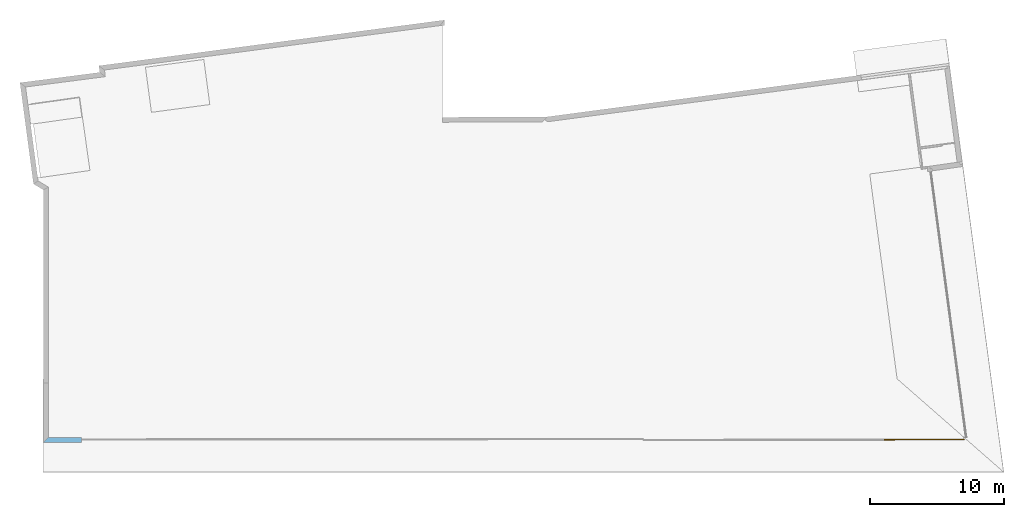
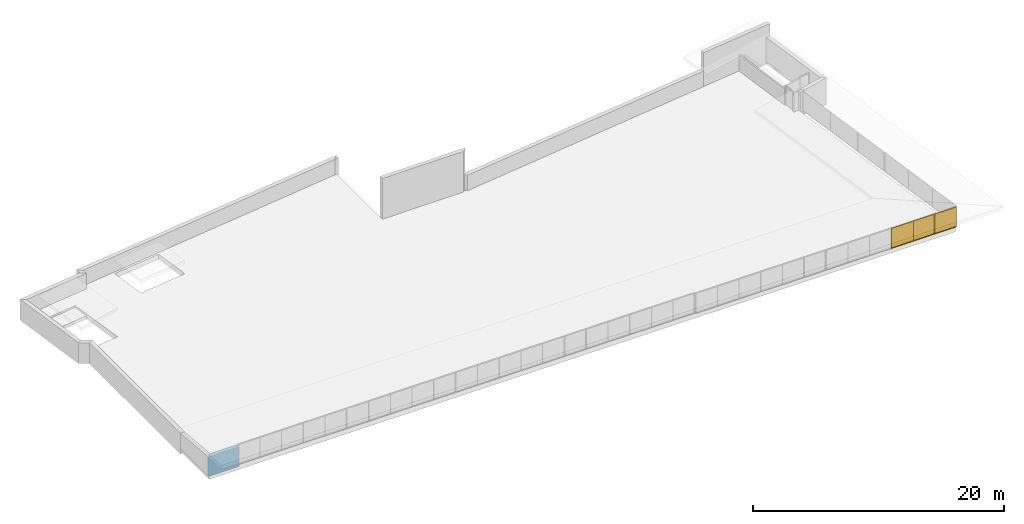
# One storey, part 5 of 7: 1 window, 11 openings, plus 1 element that does not belong to this part.
"""IFC2X3 building model written with IfcOpenShell, lengths in metres."""

from ifc_helpers import new_model, entity, si_unit, converted_unit, money_unit, direction, frame, origin_with_axes, origin_2d_with_axis, place, context, subcontext, project, spatial, polyline, rectangle, outline, extrude, clip, bounded_halfspace, faceted_brep, source, transform, mapped, material, material_list, layer, layer_set, layer_usage, type_object, element, fill, save


model = new_model("IFC2X3")

# Units and contexts
model_context = context("Model", 3, precision=1e-05, world=origin_with_axes(), true_north=direction((0.0, 1.0)))
body_context = subcontext(model_context, "Body", "Model", "MODEL_VIEW")
ifc_project = project(units=[si_unit("LENGTHUNIT", "METRE"), si_unit("AREAUNIT", "SQUARE_METRE"), si_unit("VOLUMEUNIT", "CUBIC_METRE"), converted_unit("PLANEANGLEUNIT", "DEGREE", entity("IfcPlaneAngleMeasure", 0.0174532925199), si_unit("PLANEANGLEUNIT", "RADIAN"), dimensions=[0, 0, 0, 0, 0, 0, 0]), si_unit("SOLIDANGLEUNIT", "STERADIAN"), money_unit("EUR"), converted_unit("TIMEUNIT", "Year", entity("IfcTimeMeasure", 31556926.0), si_unit("TIMEUNIT", "SECOND"), dimensions=[0, 0, 0, 0, 0, 0, 0]), si_unit("MASSUNIT", "GRAM"), si_unit("THERMODYNAMICTEMPERATUREUNIT", "DEGREE_CELSIUS"), si_unit("LUMINOUSINTENSITYUNIT", "LUMEN")], contexts=[model_context])

# Site, building, storey
site_placement = place(None, origin_with_axes())
site = spatial("IfcSite", under=ifc_project, at=site_placement, Name="Undefined", CompositionType="ELEMENT")
building_placement = place(site_placement, origin_with_axes())
building = spatial("IfcBuilding", under=site, at=building_placement, Name="Undefined", CompositionType="ELEMENT")
storey_placement = place(building_placement, frame((0.0, 0.0, 17.4), z_axis=(0.0, 0.0, 1.0), x_axis=(1.0, 0.0, 0.0)))
storey = spatial("IfcBuildingStorey", under=building, at=storey_placement, Name="Toiture", CompositionType="ELEMENT", Elevation=17.4)

# Wall, openings, window
ifc_material_1 = material(Name="Finition ext - Cr\x8epis")
ifc_layer_1 = layer(ifc_material_1, 0.015, ventilated="UNKNOWN")
ifc_material_2 = material(Name="Isolation - Fibres de bois")
ifc_layer_2 = layer(ifc_material_2, 0.16, ventilated="UNKNOWN")
ifc_material_3 = material(Name="Struct. - B.A. banch\x8e")
ifc_layer_3 = layer(ifc_material_3, 0.18, ventilated="UNKNOWN")
ifc_material_4 = material(Name="Finition int - Enduit pl\x89tre")
ifc_layer_4 = layer(ifc_material_4, 0.015, ventilated="UNKNOWN")
ifc_layer_set = layer_set([ifc_layer_1, ifc_layer_2, ifc_layer_3, ifc_layer_4], Name="1.2-Mur ext: rev\x8et ext + isol ext + ma\x8donnerie + enduit")
ifc_layer_usage = layer_usage(ifc_layer_set, "AXIS2", "POSITIVE", 0.0)
wall_type = type_object("IfcWallType", Name="1.2-Mur ext: rev\x8et ext + isol ext + ma\x8donnerie + enduit 370", PredefinedType="NOTDEFINED")
wall_placement = place(storey_placement, frame((-0.37, -0.437599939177, 0.0), z_axis=(0.0, 0.0, 1.0), x_axis=(0.999999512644, 0.000987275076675, 0.0)))
wall = element("IfcWallStandardCase", 1, at=wall_placement, inside=storey, type_object=wall_type, material=ifc_layer_usage, Name="SW - 010", ObjectType="WALL", context=body_context, shape_type="Clipping", body=[
    clip(clip(clip(extrude(outline(polyline([(0.0, 0.0), (68.8425471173, 0.0), (68.8425471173, 0.37), (0.370365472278, 0.37), (0.0, 0.0)])), origin_with_axes(), (0.0, 0.0, 1.0), 3.302), bounded_halfspace(frame((0.348543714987, 0.0465058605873, -4.01917951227), z_axis=(0.0863901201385, 0.0115269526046, -0.996194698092), x_axis=(0.0, 0.99993306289, 0.0115702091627)), True, origin_with_axes(), polyline([(68.3700868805, -0.01), (71.0799666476, -0.01), (71.0799666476, 0.0), (70.6458958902, 0.38), (67.9245932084, 0.38), (68.3700868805, -0.01)]))), bounded_halfspace(frame((-2.80584370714e-09, 0.163066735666, 1.8638613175), z_axis=(1.49966448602e-09, -0.0871557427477, -0.996194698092), x_axis=(0.0, 0.996194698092, -0.0871557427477)), True, origin_with_axes(), polyline([(-0.249966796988, -0.01), (68.6682250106, -0.01), (68.6682250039, 0.38), (-0.249966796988, 0.38), (-0.249966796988, -0.01)]))), bounded_halfspace(frame((-2.80584370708e-09, 0.163066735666, 1.8638613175), z_axis=(1.49966448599e-09, -0.0871557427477, -0.996194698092), x_axis=(0.0, 0.996194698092, -0.0871557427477)), True, origin_with_axes(), polyline([(-0.299976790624, -0.01), (68.6682250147, -0.01), (68.6682250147, 0.38), (-0.299976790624, 0.38), (-0.299976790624, -0.01)]))),
])
opening_1_placement = place(wall_placement, frame((65.8425467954, 0.0, 0.0), z_axis=(0.0, 0.0, 1.0), x_axis=(1.0, 0.0, 0.0)))
opening_1 = element("IfcOpeningElement", 2, at=opening_1_placement, cuts=wall, Name="WD - 001", context=body_context, shape_type="SweptSolid", body=[
    extrude(rectangle(XDim=6.0, YDim=2.0, at=origin_2d_with_axis()), frame((0.0, 0.74, 1.0), z_axis=(0.0, -1.0, 0.0), x_axis=(1.0, 0.0, 0.0)), (0.0, 0.0, 1.0), 0.62),
    extrude(rectangle(XDim=6.0, YDim=2.0, at=origin_2d_with_axis()), frame((0.0, -0.37, 1.0), z_axis=(0.0, 1.0, 0.0), x_axis=(1.0, 0.0, 0.0)), (0.0, 0.0, 1.0), 0.49),
])
opening_2_placement = place(wall_placement, frame((59.8425467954, 0.0, 0.0), z_axis=(0.0, 0.0, 1.0), x_axis=(1.0, 0.0, 0.0)))
element("IfcOpeningElement", 3, at=opening_2_placement, cuts=wall, Name="WD - 001", context=body_context, shape_type="SweptSolid", body=[
    extrude(rectangle(XDim=6.0, YDim=2.0, at=origin_2d_with_axis()), frame((0.0, 0.74, 1.0), z_axis=(0.0, 1.0, 0.0), x_axis=(-1.0, 0.0, 0.0)), (0.0, 0.0, -1.0), 0.62),
    extrude(rectangle(XDim=6.0, YDim=2.0, at=origin_2d_with_axis()), frame((0.0, -0.37, 1.0), z_axis=(0.0, -1.0, 0.0), x_axis=(-1.0, 0.0, 0.0)), (0.0, 0.0, -1.0), 0.49),
])
opening_3_placement = place(wall_placement, frame((53.8425467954, 0.0, 0.0), z_axis=(0.0, 0.0, 1.0), x_axis=(1.0, 0.0, 0.0)))
element("IfcOpeningElement", 4, at=opening_3_placement, cuts=wall, Name="WD - 002", context=body_context, shape_type="SweptSolid", body=[
    extrude(rectangle(XDim=6.0, YDim=2.0, at=origin_2d_with_axis()), frame((0.0, 0.74, 1.0), z_axis=(0.0, 1.0, 0.0), x_axis=(-1.0, 0.0, 0.0)), (0.0, 0.0, -1.0), 0.62),
    extrude(rectangle(XDim=6.0, YDim=2.0, at=origin_2d_with_axis()), frame((0.0, -0.37, 1.0), z_axis=(0.0, -1.0, 0.0), x_axis=(-1.0, 0.0, 0.0)), (0.0, 0.0, -1.0), 0.49),
])
opening_4_placement = place(wall_placement, frame((47.8425467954, 0.0, 0.0), z_axis=(0.0, 0.0, 1.0), x_axis=(1.0, 0.0, 0.0)))
element("IfcOpeningElement", 5, at=opening_4_placement, cuts=wall, Name="WD - 003", context=body_context, shape_type="SweptSolid", body=[
    extrude(rectangle(XDim=6.0, YDim=2.0, at=origin_2d_with_axis()), frame((0.0, 0.74, 1.0), z_axis=(0.0, 1.0, 0.0), x_axis=(-1.0, 0.0, 0.0)), (0.0, 0.0, -1.0), 0.62),
    extrude(rectangle(XDim=6.0, YDim=2.0, at=origin_2d_with_axis()), frame((0.0, -0.37, 1.0), z_axis=(0.0, -1.0, 0.0), x_axis=(-1.0, 0.0, 0.0)), (0.0, 0.0, -1.0), 0.49),
])
opening_5_placement = place(wall_placement, frame((41.8425467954, 0.0, 0.0), z_axis=(0.0, 0.0, 1.0), x_axis=(1.0, 0.0, 0.0)))
element("IfcOpeningElement", 6, at=opening_5_placement, cuts=wall, Name="WD - 004", context=body_context, shape_type="SweptSolid", body=[
    extrude(rectangle(XDim=6.0, YDim=2.0, at=origin_2d_with_axis()), frame((0.0, -0.37, 1.0), z_axis=(0.0, 1.0, 0.0), x_axis=(-1.0, 0.0, 0.0)), (0.0, 0.0, 1.0), 0.62),
    extrude(rectangle(XDim=6.0, YDim=2.0, at=origin_2d_with_axis()), frame((0.0, 0.74, 1.0), z_axis=(0.0, -1.0, 0.0), x_axis=(-1.0, 0.0, 0.0)), (0.0, 0.0, 1.0), 0.49),
])
opening_6_placement = place(wall_placement, frame((35.8425467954, 0.0, 0.0), z_axis=(0.0, 0.0, 1.0), x_axis=(1.0, 0.0, 0.0)))
element("IfcOpeningElement", 7, at=opening_6_placement, cuts=wall, Name="WD - 004", context=body_context, shape_type="SweptSolid", body=[
    extrude(rectangle(XDim=6.0, YDim=2.0, at=origin_2d_with_axis()), frame((0.0, -0.37, 1.0), z_axis=(0.0, 1.0, 0.0), x_axis=(-1.0, 0.0, 0.0)), (0.0, 0.0, 1.0), 0.62),
    extrude(rectangle(XDim=6.0, YDim=2.0, at=origin_2d_with_axis()), frame((0.0, 0.74, 1.0), z_axis=(0.0, -1.0, 0.0), x_axis=(-1.0, 0.0, 0.0)), (0.0, 0.0, 1.0), 0.49),
])
opening_7_placement = place(wall_placement, frame((29.8425467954, 0.0, 0.0), z_axis=(0.0, 0.0, 1.0), x_axis=(1.0, 0.0, 0.0)))
element("IfcOpeningElement", 8, at=opening_7_placement, cuts=wall, Name="WD - 004", context=body_context, shape_type="SweptSolid", body=[
    extrude(rectangle(XDim=6.0, YDim=2.0, at=origin_2d_with_axis()), frame((0.0, -0.37, 1.0), z_axis=(0.0, 1.0, 0.0), x_axis=(-1.0, 0.0, 0.0)), (0.0, 0.0, 1.0), 0.62),
    extrude(rectangle(XDim=6.0, YDim=2.0, at=origin_2d_with_axis()), frame((0.0, 0.74, 1.0), z_axis=(0.0, -1.0, 0.0), x_axis=(-1.0, 0.0, 0.0)), (0.0, 0.0, 1.0), 0.49),
])
opening_8_placement = place(wall_placement, frame((23.8425467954, 0.0, 0.0), z_axis=(0.0, 0.0, 1.0), x_axis=(1.0, 0.0, 0.0)))
element("IfcOpeningElement", 9, at=opening_8_placement, cuts=wall, Name="WD - 004", context=body_context, shape_type="SweptSolid", body=[
    extrude(rectangle(XDim=6.0, YDim=2.0, at=origin_2d_with_axis()), frame((0.0, -0.37, 1.0), z_axis=(0.0, 1.0, 0.0), x_axis=(-1.0, 0.0, 0.0)), (0.0, 0.0, 1.0), 0.62),
    extrude(rectangle(XDim=6.0, YDim=2.0, at=origin_2d_with_axis()), frame((0.0, 0.74, 1.0), z_axis=(0.0, -1.0, 0.0), x_axis=(-1.0, 0.0, 0.0)), (0.0, 0.0, 1.0), 0.49),
])
opening_9_placement = place(wall_placement, frame((17.8425467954, 0.0, 0.0), z_axis=(0.0, 0.0, 1.0), x_axis=(1.0, 0.0, 0.0)))
element("IfcOpeningElement", 10, at=opening_9_placement, cuts=wall, Name="WD - 004", context=body_context, shape_type="SweptSolid", body=[
    extrude(rectangle(XDim=6.0, YDim=2.0, at=origin_2d_with_axis()), frame((0.0, -0.37, 1.0), z_axis=(0.0, 1.0, 0.0), x_axis=(-1.0, 0.0, 0.0)), (0.0, 0.0, 1.0), 0.62),
    extrude(rectangle(XDim=6.0, YDim=2.0, at=origin_2d_with_axis()), frame((0.0, 0.74, 1.0), z_axis=(0.0, -1.0, 0.0), x_axis=(-1.0, 0.0, 0.0)), (0.0, 0.0, 1.0), 0.49),
])
opening_10_placement = place(wall_placement, frame((11.8425467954, 0.0, 0.0), z_axis=(0.0, 0.0, 1.0), x_axis=(1.0, 0.0, 0.0)))
element("IfcOpeningElement", 11, at=opening_10_placement, cuts=wall, Name="WD - 004", context=body_context, shape_type="SweptSolid", body=[
    extrude(rectangle(XDim=6.0, YDim=2.0, at=origin_2d_with_axis()), frame((0.0, -0.37, 1.0), z_axis=(0.0, 1.0, 0.0), x_axis=(-1.0, 0.0, 0.0)), (0.0, 0.0, 1.0), 0.62),
    extrude(rectangle(XDim=6.0, YDim=2.0, at=origin_2d_with_axis()), frame((0.0, 0.74, 1.0), z_axis=(0.0, -1.0, 0.0), x_axis=(-1.0, 0.0, 0.0)), (0.0, 0.0, 1.0), 0.49),
])
opening_11_placement = place(wall_placement, frame((5.84254679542, 0.0, 0.0), z_axis=(0.0, 0.0, 1.0), x_axis=(1.0, 0.0, 0.0)))
element("IfcOpeningElement", 12, at=opening_11_placement, cuts=wall, Name="WD - 004", context=body_context, shape_type="SweptSolid", body=[
    extrude(rectangle(XDim=6.0, YDim=2.0, at=origin_2d_with_axis()), frame((0.0, -0.37, 1.0), z_axis=(0.0, 1.0, 0.0), x_axis=(-1.0, 0.0, 0.0)), (0.0, 0.0, 1.0), 0.62),
    extrude(rectangle(XDim=6.0, YDim=2.0, at=origin_2d_with_axis()), frame((0.0, 0.74, 1.0), z_axis=(0.0, -1.0, 0.0), x_axis=(-1.0, 0.0, 0.0)), (0.0, 0.0, 1.0), 0.49),
])
ifc_material_5 = material(Name="Background")
ifc_material_6 = material(Name="Air Space")
ifc_material_7 = material(Name="Rigid Insulation")
ifc_material_list = material_list([ifc_material_5, ifc_material_6, ifc_material_5, ifc_material_5, ifc_material_5, ifc_material_7, ifc_material_5, ifc_material_5, ifc_material_5, ifc_material_5, ifc_material_6, ifc_material_5, ifc_material_5])
window_style = type_object("IfcWindowStyle", Name="Fen\x90tre horizontale \x88 ch\x89ssis multiples 18", ConstructionType="NOTDEFINED", OperationType="TRIPLE_PANEL_VERTICAL", ParameterTakesPrecedence=False, Sizeable=False)
shared_shape = source(origin_with_axes(), body_context, "Body", "Brep", [
    faceted_brep([(-2.95, -0.05, 1.95), (-2.95, 0.0, 1.95), (-3.0, 0.0, 2.0), (-3.0, -0.05, 2.0), (-2.95, -0.05, 0.05), (-2.95, 0.0, 0.05), (-3.0, 0.0, 0.0), (-3.0, -0.05, 0.0)], [[[0, 1, 2, 3]], [[4, 5, 1, 0]], [[1, 5, 6, 2]], [[3, 2, 6, 7]], [[0, 3, 7, 4]], [[7, 6, 5, 4]]]),
    faceted_brep([(-1.01666666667, -0.05, 0.05), (-1.01666666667, 0.0, 0.05), (-0.991666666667, 0.0, 0.0), (-0.991666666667, -0.05, 0.0), (-1.01666666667, -0.05, 1.95), (-1.01666666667, 0.0, 1.95), (-0.991666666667, 0.0, 2.0), (-0.991666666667, -0.05, 2.0)], [[[0, 1, 2, 3]], [[4, 5, 1, 0]], [[1, 5, 6, 2]], [[3, 2, 6, 7]], [[0, 3, 7, 4]], [[7, 6, 5, 4]]]),
    faceted_brep([(-1.01666666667, -0.05, 1.95), (-1.01666666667, 0.0, 1.95), (-0.991666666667, 0.0, 2.0), (-0.991666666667, -0.05, 2.0), (-2.95, -0.05, 1.95), (-2.95, 0.0, 1.95), (-3.0, 0.0, 2.0), (-3.0, -0.05, 2.0)], [[[0, 1, 2, 3]], [[4, 5, 1, 0]], [[1, 5, 6, 2]], [[3, 2, 6, 7]], [[0, 3, 7, 4]], [[7, 6, 5, 4]]]),
    faceted_brep([(-2.95, -0.05, 0.05), (-2.95, 0.0, 0.05), (-3.0, 0.0, 0.0), (-3.0, -0.05, 0.0), (-1.01666666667, -0.05, 0.05), (-1.01666666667, 0.0, 0.05), (-0.991666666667, 0.0, 0.0), (-0.991666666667, -0.05, 0.0)], [[[0, 1, 2, 3]], [[4, 5, 1, 0]], [[1, 5, 6, 2]], [[3, 2, 6, 7]], [[0, 3, 7, 4]], [[7, 6, 5, 4]]]),
    faceted_brep([(-0.966666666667, -0.05, 1.95), (-0.966666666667, 0.0, 1.95), (-0.991666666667, 0.0, 2.0), (-0.991666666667, -0.05, 2.0), (-0.966666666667, -0.05, 0.05), (-0.966666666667, 0.0, 0.05), (-0.991666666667, 0.0, 0.0), (-0.991666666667, -0.05, 0.0)], [[[0, 1, 2, 3]], [[4, 5, 1, 0]], [[1, 5, 6, 2]], [[3, 2, 6, 7]], [[0, 3, 7, 4]], [[7, 6, 5, 4]]]),
    faceted_brep([(0.966666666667, -0.05, 0.05), (0.966666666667, 0.0, 0.05), (0.991666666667, 0.0, 0.0), (0.991666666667, -0.05, 0.0), (0.966666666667, -0.05, 1.95), (0.966666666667, 0.0, 1.95), (0.991666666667, 0.0, 2.0), (0.991666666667, -0.05, 2.0)], [[[0, 1, 2, 3]], [[4, 5, 1, 0]], [[1, 5, 6, 2]], [[3, 2, 6, 7]], [[0, 3, 7, 4]], [[7, 6, 5, 4]]]),
    faceted_brep([(0.966666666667, -0.05, 1.95), (0.966666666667, 0.0, 1.95), (0.991666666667, 0.0, 2.0), (0.991666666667, -0.05, 2.0), (-0.966666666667, -0.05, 1.95), (-0.966666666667, 0.0, 1.95), (-0.991666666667, 0.0, 2.0), (-0.991666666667, -0.05, 2.0)], [[[0, 1, 2, 3]], [[4, 5, 1, 0]], [[1, 5, 6, 2]], [[3, 2, 6, 7]], [[0, 3, 7, 4]], [[7, 6, 5, 4]]]),
    faceted_brep([(-0.966666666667, -0.05, 0.05), (-0.966666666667, 0.0, 0.05), (-0.991666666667, 0.0, 0.0), (-0.991666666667, -0.05, 0.0), (0.966666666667, -0.05, 0.05), (0.966666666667, 0.0, 0.05), (0.991666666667, 0.0, 0.0), (0.991666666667, -0.05, 0.0)], [[[0, 1, 2, 3]], [[4, 5, 1, 0]], [[1, 5, 6, 2]], [[3, 2, 6, 7]], [[0, 3, 7, 4]], [[7, 6, 5, 4]]]),
    faceted_brep([(1.01666666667, -0.05, 1.95), (1.01666666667, 0.0, 1.95), (0.991666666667, 0.0, 2.0), (0.991666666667, -0.05, 2.0), (1.01666666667, -0.05, 0.05), (1.01666666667, 0.0, 0.05), (0.991666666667, 0.0, 0.0), (0.991666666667, -0.05, 0.0)], [[[0, 1, 2, 3]], [[4, 5, 1, 0]], [[1, 5, 6, 2]], [[3, 2, 6, 7]], [[0, 3, 7, 4]], [[7, 6, 5, 4]]]),
    faceted_brep([(2.95, -0.05, 0.05), (2.95, 0.0, 0.05), (3.0, 0.0, 0.0), (3.0, -0.05, 0.0), (2.95, -0.05, 1.95), (2.95, 0.0, 1.95), (3.0, 0.0, 2.0), (3.0, -0.05, 2.0)], [[[0, 1, 2, 3]], [[4, 5, 1, 0]], [[1, 5, 6, 2]], [[3, 2, 6, 7]], [[0, 3, 7, 4]], [[7, 6, 5, 4]]]),
    faceted_brep([(2.95, -0.05, 1.95), (2.95, 0.0, 1.95), (3.0, 0.0, 2.0), (3.0, -0.05, 2.0), (1.01666666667, -0.05, 1.95), (1.01666666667, 0.0, 1.95), (0.991666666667, 0.0, 2.0), (0.991666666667, -0.05, 2.0)], [[[0, 1, 2, 3]], [[4, 5, 1, 0]], [[1, 5, 6, 2]], [[3, 2, 6, 7]], [[0, 3, 7, 4]], [[7, 6, 5, 4]]]),
    faceted_brep([(1.01666666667, -0.05, 0.05), (1.01666666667, 0.0, 0.05), (0.991666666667, 0.0, 0.0), (0.991666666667, -0.05, 0.0), (2.95, -0.05, 0.05), (2.95, 0.0, 0.05), (3.0, 0.0, 0.0), (3.0, -0.05, 0.0)], [[[0, 1, 2, 3]], [[4, 5, 1, 0]], [[1, 5, 6, 2]], [[3, 2, 6, 7]], [[0, 3, 7, 4]], [[7, 6, 5, 4]]]),
    faceted_brep([(-2.95, -0.035, 0.05), (-2.95, -0.015, 0.05), (-1.01666666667, -0.015, 0.05), (-1.01666666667, -0.035, 0.05), (-2.95, -0.035, 1.95), (-2.95, -0.015, 1.95), (-1.01666666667, -0.015, 1.95), (-1.01666666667, -0.035, 1.95)], [[[0, 1, 2, 3]], [[4, 5, 1, 0]], [[1, 5, 6, 2]], [[3, 2, 6, 7]], [[0, 3, 7, 4]], [[7, 6, 5, 4]]]),
    faceted_brep([(-0.966666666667, -0.035, 0.05), (-0.966666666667, -0.015, 0.05), (0.966666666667, -0.015, 0.05), (0.966666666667, -0.035, 0.05), (-0.966666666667, -0.035, 1.95), (-0.966666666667, -0.015, 1.95), (0.966666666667, -0.015, 1.95), (0.966666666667, -0.035, 1.95)], [[[0, 1, 2, 3]], [[4, 5, 1, 0]], [[1, 5, 6, 2]], [[3, 2, 6, 7]], [[0, 3, 7, 4]], [[7, 6, 5, 4]]]),
    faceted_brep([(1.01666666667, -0.035, 0.05), (1.01666666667, -0.015, 0.05), (2.95, -0.015, 0.05), (2.95, -0.035, 0.05), (1.01666666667, -0.035, 1.95), (1.01666666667, -0.015, 1.95), (2.95, -0.015, 1.95), (2.95, -0.035, 1.95)], [[[0, 1, 2, 3]], [[4, 5, 1, 0]], [[1, 5, 6, 2]], [[3, 2, 6, 7]], [[0, 3, 7, 4]], [[7, 6, 5, 4]]]),
])
window_placement = place(opening_1_placement, frame((-3.0, 0.0, 0.0), z_axis=(0.0, 0.0, 1.0), x_axis=(1.0, 0.0, 0.0)))
window = element("IfcWindow", 13, at=window_placement, inside=storey, type_object=window_style, material=ifc_material_list, Name="WD - 001", OverallHeight=2.0, OverallWidth=6.0, context=body_context, shape_type="MappedRepresentation", body=[
    mapped(shared_shape, transform((3.0, 0.17, 0.0))),
])
fill(opening_1, window)

save(model, "model.ifc")
